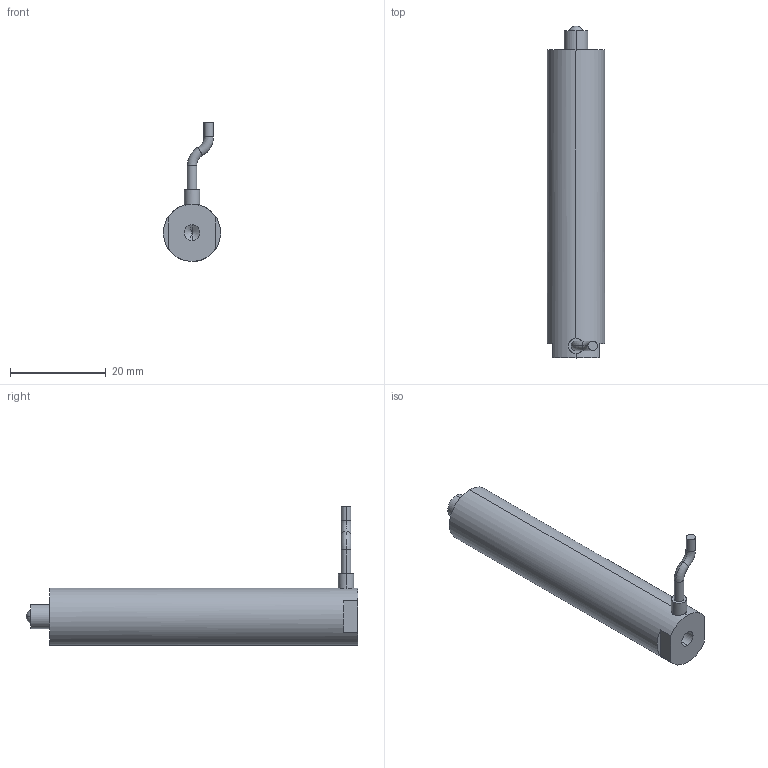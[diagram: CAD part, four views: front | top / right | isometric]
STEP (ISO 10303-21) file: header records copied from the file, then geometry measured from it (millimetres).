
FILE_DESCRIPTION (( 'STEP AP203' ), '1' );
FILE_NAME ('球头式60VS12.STEP', '2020-08-19T06:04:21', ( 'User' ), ( 'china' ), 'SwSTEP 2.0', 'SolidWorks 2016', '' );
FILE_SCHEMA (( 'CONFIG_CONTROL_DESIGN' ));
Length unit declared in the file: millimetre
Products named in the file (1): ⑩芛宒60VS12
Bounding box: 12 x 69.5 x 29.08 mm (x, y, z)
Volume: 7367.9 mm3; surface area: 2917.6 mm2
Topology: 1 solids, 1 shells, 922 faces, 2475 edges, 1646 vertices
Faces by surface type: bspline 511, plane 302, cylinder 101, torus 4, sphere 2, cone 2
Entity records: 43500 total; most frequent: CARTESIAN_POINT 24917, ORIENTED_EDGE 4946, EDGE_CURVE 2473, DIRECTION 1882, B_SPLINE_CURVE_WITH_KNOTS 1677, VERTEX_POINT 1646, EDGE_LOOP 1015, FACE_OUTER_BOUND 922
